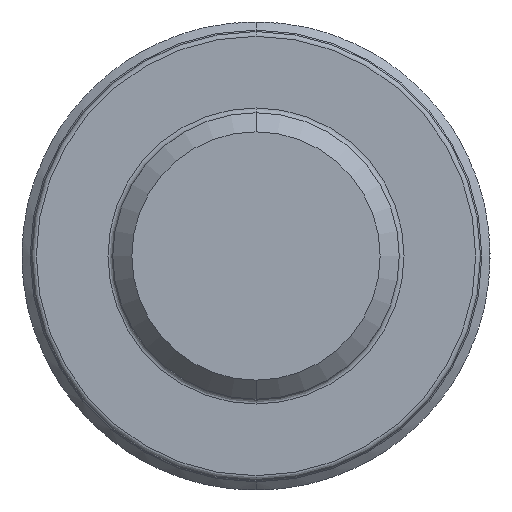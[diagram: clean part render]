
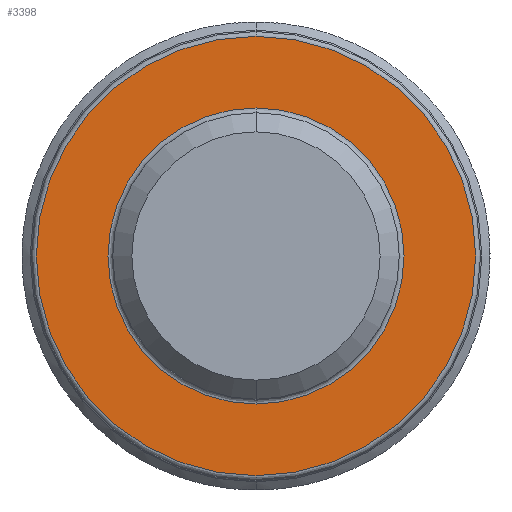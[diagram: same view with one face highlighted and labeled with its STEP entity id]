
A CAD part, front view. The second image highlights one B-rep face of the part: STEP entity #3398.
In plain terms, the highlighted planar face has unit normal (0, -1, 0).
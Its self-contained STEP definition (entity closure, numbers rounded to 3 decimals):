
#18 = CIRCLE ( 'NONE', #4726, 4.6 ) ;
#156 = CARTESIAN_POINT ( 'NONE',  ( 0., -6., 0. ) ) ;
#265 = DIRECTION ( 'NONE',  ( 0., 1., 0. ) ) ;
#343 = CARTESIAN_POINT ( 'NONE',  ( 0., -6., -3.1 ) ) ;
#484 = VERTEX_POINT ( 'NONE', #2867 ) ;
#780 = DIRECTION ( 'NONE',  ( 0., 0., -1. ) ) ;
#1166 = AXIS2_PLACEMENT_3D ( 'NONE', #4519, #1837, #6347 ) ;
#1388 = EDGE_CURVE ( 'NONE', #5461, #1465, #4618, .T. ) ;
#1465 = VERTEX_POINT ( 'NONE', #343 ) ;
#1650 = CARTESIAN_POINT ( 'NONE',  ( 0., -6., 0. ) ) ;
#1814 = AXIS2_PLACEMENT_3D ( 'NONE', #6593, #265, #6051 ) ;
#1837 = DIRECTION ( 'NONE',  ( 0., -1., 0. ) ) ;
#2000 = AXIS2_PLACEMENT_3D ( 'NONE', #6570, #2775, #2697 ) ;
#2315 = EDGE_CURVE ( 'NONE', #1465, #5461, #4697, .T. ) ;
#2694 = ORIENTED_EDGE ( 'NONE', *, *, #1388, .T. ) ;
#2697 = DIRECTION ( 'NONE',  ( 0., 0., -1. ) ) ;
#2730 = DIRECTION ( 'NONE',  ( 0., 1., 0. ) ) ;
#2775 = DIRECTION ( 'NONE',  ( 0., -1., 0. ) ) ;
#2867 = CARTESIAN_POINT ( 'NONE',  ( 0., -6., -4.6 ) ) ;
#2894 = CARTESIAN_POINT ( 'NONE',  ( 0., -6., 3.1 ) ) ;
#2952 = AXIS2_PLACEMENT_3D ( 'NONE', #156, #2730, #780 ) ;
#3189 = PLANE ( 'NONE',  #1166 ) ;
#3398 = ADVANCED_FACE ( 'NONE', ( #7610, #4482 ), #3189, .T. ) ;
#3428 = DIRECTION ( 'NONE',  ( 0., 0., -1. ) ) ;
#4215 = DIRECTION ( 'NONE',  ( 0., -1., 0. ) ) ;
#4482 = FACE_OUTER_BOUND ( 'NONE', #7192, .T. ) ;
#4519 = CARTESIAN_POINT ( 'NONE',  ( 3., -6., 0. ) ) ;
#4549 = CIRCLE ( 'NONE', #2000, 4.6 ) ;
#4618 = CIRCLE ( 'NONE', #1814, 3.1 ) ;
#4630 = EDGE_CURVE ( 'NONE', #484, #7243, #4549, .T. ) ;
#4697 = CIRCLE ( 'NONE', #2952, 3.1 ) ;
#4726 = AXIS2_PLACEMENT_3D ( 'NONE', #1650, #4215, #3428 ) ;
#5461 = VERTEX_POINT ( 'NONE', #2894 ) ;
#5517 = EDGE_LOOP ( 'NONE', ( #6655, #2694 ) ) ;
#6051 = DIRECTION ( 'NONE',  ( 0., 0., -1. ) ) ;
#6347 = DIRECTION ( 'NONE',  ( 0., 0., -1. ) ) ;
#6570 = CARTESIAN_POINT ( 'NONE',  ( 0., -6., 0. ) ) ;
#6593 = CARTESIAN_POINT ( 'NONE',  ( 0., -6., 0. ) ) ;
#6631 = ORIENTED_EDGE ( 'NONE', *, *, #7286, .T. ) ;
#6655 = ORIENTED_EDGE ( 'NONE', *, *, #2315, .T. ) ;
#6798 = CARTESIAN_POINT ( 'NONE',  ( 0., -6., 4.6 ) ) ;
#7192 = EDGE_LOOP ( 'NONE', ( #8110, #6631 ) ) ;
#7243 = VERTEX_POINT ( 'NONE', #6798 ) ;
#7286 = EDGE_CURVE ( 'NONE', #7243, #484, #18, .T. ) ;
#7610 = FACE_BOUND ( 'NONE', #5517, .T. ) ;
#8110 = ORIENTED_EDGE ( 'NONE', *, *, #4630, .T. ) ;
